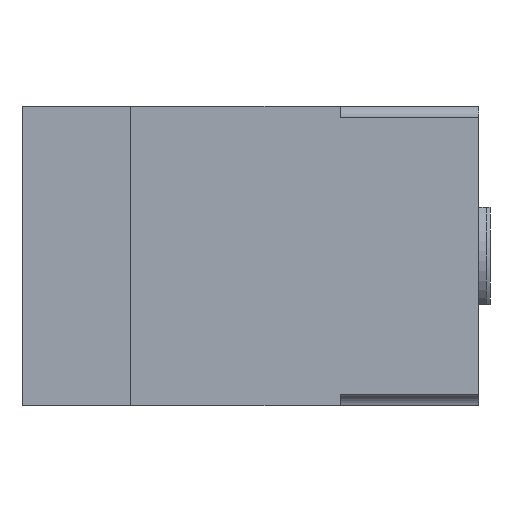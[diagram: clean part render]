
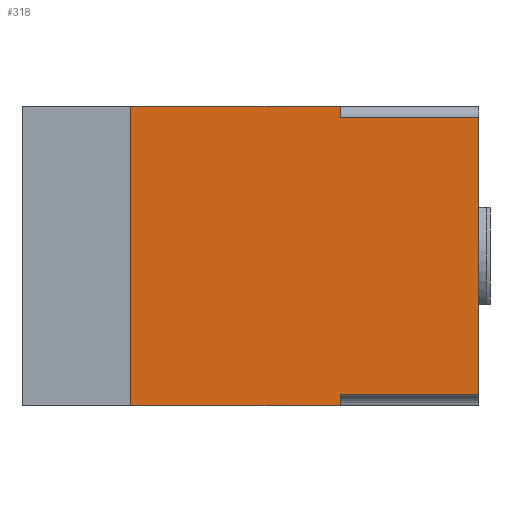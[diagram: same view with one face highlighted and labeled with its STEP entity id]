
A CAD part, front view. The second image highlights one B-rep face of the part: STEP entity #318.
In plain terms, the highlighted planar face has unit normal (0, -1, 0).
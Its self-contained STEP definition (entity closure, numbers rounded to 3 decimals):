
#318 = ADVANCED_FACE( '', ( #708 ), #709, .T. );
#708 = FACE_OUTER_BOUND( '', #1149, .T. );
#709 = PLANE( '', #1150 );
#1149 = EDGE_LOOP( '', ( #1948, #1949, #1950, #1951, #1952, #1953, #1954, #1955 ) );
#1150 = AXIS2_PLACEMENT_3D( '', #1956, #1957, #1958 );
#1948 = ORIENTED_EDGE( '', *, *, #2404, .T. );
#1949 = ORIENTED_EDGE( '', *, *, #2559, .T. );
#1950 = ORIENTED_EDGE( '', *, *, #2571, .F. );
#1951 = ORIENTED_EDGE( '', *, *, #2562, .T. );
#1952 = ORIENTED_EDGE( '', *, *, #2424, .T. );
#1953 = ORIENTED_EDGE( '', *, *, #2572, .T. );
#1954 = ORIENTED_EDGE( '', *, *, #2457, .T. );
#1955 = ORIENTED_EDGE( '', *, *, #2475, .F. );
#1956 = CARTESIAN_POINT( '', ( 61., -17., 20. ) );
#1957 = DIRECTION( '', ( 0., -1., 0. ) );
#1958 = DIRECTION( '', ( 0., 0., -1. ) );
#2404 = EDGE_CURVE( '', #2867, #2869, #2871, .T. );
#2424 = EDGE_CURVE( '', #2900, #2898, #2901, .T. );
#2457 = EDGE_CURVE( '', #2950, #2948, #2951, .T. );
#2475 = EDGE_CURVE( '', #2867, #2948, #2973, .T. );
#2559 = EDGE_CURVE( '', #2869, #3090, #3092, .T. );
#2562 = EDGE_CURVE( '', #3094, #2900, #3096, .T. );
#2571 = EDGE_CURVE( '', #3094, #3090, #3108, .T. );
#2572 = EDGE_CURVE( '', #2898, #2950, #3109, .T. );
#2867 = VERTEX_POINT( '', #3591 );
#2869 = VERTEX_POINT( '', #3594 );
#2871 = LINE( '', #3597, #3598 );
#2898 = VERTEX_POINT( '', #3633 );
#2900 = VERTEX_POINT( '', #3636 );
#2901 = LINE( '', #3637, #3638 );
#2948 = VERTEX_POINT( '', #3701 );
#2950 = VERTEX_POINT( '', #3704 );
#2951 = LINE( '', #3705, #3706 );
#2973 = LINE( '', #3734, #3735 );
#3090 = VERTEX_POINT( '', #3893 );
#3092 = LINE( '', #3896, #3897 );
#3094 = VERTEX_POINT( '', #3899 );
#3096 = LINE( '', #3902, #3903 );
#3108 = LINE( '', #3917, #3918 );
#3109 = LINE( '', #3919, #3920 );
#3591 = CARTESIAN_POINT( '', ( 42.5, -17., -20. ) );
#3594 = CARTESIAN_POINT( '', ( 42.5, -17., -18.5 ) );
#3597 = CARTESIAN_POINT( '', ( 42.5, -17., 20. ) );
#3598 = VECTOR( '', #4173, 1000. );
#3633 = CARTESIAN_POINT( '', ( 42.5, -17., 20. ) );
#3636 = CARTESIAN_POINT( '', ( 42.5, -17., 18.5 ) );
#3637 = CARTESIAN_POINT( '', ( 42.5, -17., 20. ) );
#3638 = VECTOR( '', #4195, 1000. );
#3701 = CARTESIAN_POINT( '', ( 14.5, -17., -20. ) );
#3704 = CARTESIAN_POINT( '', ( 14.5, -17., 20. ) );
#3705 = CARTESIAN_POINT( '', ( 14.5, -17., 20. ) );
#3706 = VECTOR( '', #4234, 1000. );
#3734 = CARTESIAN_POINT( '', ( 61., -17., -20. ) );
#3735 = VECTOR( '', #4250, 1000. );
#3893 = CARTESIAN_POINT( '', ( 61., -17., -18.5 ) );
#3896 = CARTESIAN_POINT( '', ( 61., -17., -18.5 ) );
#3897 = VECTOR( '', #4338, 1000. );
#3899 = CARTESIAN_POINT( '', ( 61., -17., 18.5 ) );
#3902 = CARTESIAN_POINT( '', ( 61., -17., 18.5 ) );
#3903 = VECTOR( '', #4340, 1000. );
#3917 = CARTESIAN_POINT( '', ( 61., -17., 20. ) );
#3918 = VECTOR( '', #4349, 1000. );
#3919 = CARTESIAN_POINT( '', ( 61., -17., 20. ) );
#3920 = VECTOR( '', #4350, 1000. );
#4173 = DIRECTION( '', ( 0., 0., 1. ) );
#4195 = DIRECTION( '', ( 0., 0., 1. ) );
#4234 = DIRECTION( '', ( 0., 0., -1. ) );
#4250 = DIRECTION( '', ( -1., 0., 0. ) );
#4338 = DIRECTION( '', ( 1., 0., 0. ) );
#4340 = DIRECTION( '', ( -1., 0., 0. ) );
#4349 = DIRECTION( '', ( 0., 0., -1. ) );
#4350 = DIRECTION( '', ( -1., 0., 0. ) );
